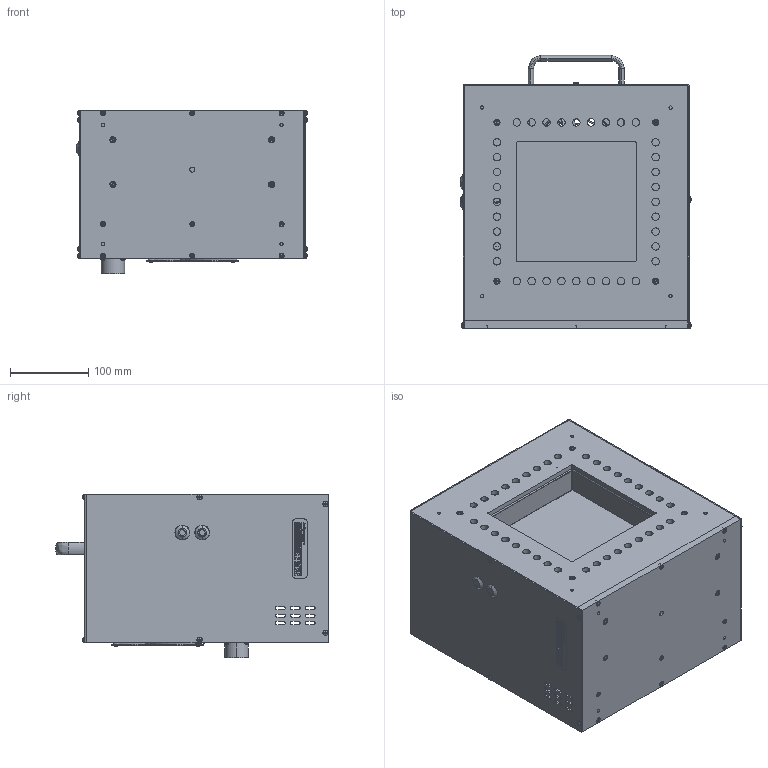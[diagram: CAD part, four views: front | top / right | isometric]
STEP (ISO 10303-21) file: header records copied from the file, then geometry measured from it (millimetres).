
FILE_DESCRIPTION (( 'STEP AP203' ), '1' );
FILE_NAME ('319-001-329_NC.STEP', '2014-09-25T17:02:40', ( '' ), ( '' ), 'SwSTEP 2.0', 'SolidWorks 2013', '' );
FILE_SCHEMA (( 'CONFIG_CONTROL_DESIGN' ));
Products named in the file (1): 319-001-329_NC
Bounding box: 295.06 x 349.43 x 209.8 mm (x, y, z)
Volume: 2644375.9 mm3; surface area: 1014189.3 mm2
Topology: 56 solids, 56 shells, 3745 faces, 9634 edges, 6216 vertices
Faces by surface type: plane 2216, cylinder 835, bspline 402, cone 136, torus 118, sphere 38
Entity records: 127147 total; most frequent: CARTESIAN_POINT 36171, ORIENTED_EDGE 19192, DIRECTION 18016, EDGE_CURVE 9596, VERTEX_POINT 6216, VECTOR 6106, LINE 6106, AXIS2_PLACEMENT_3D 5955
